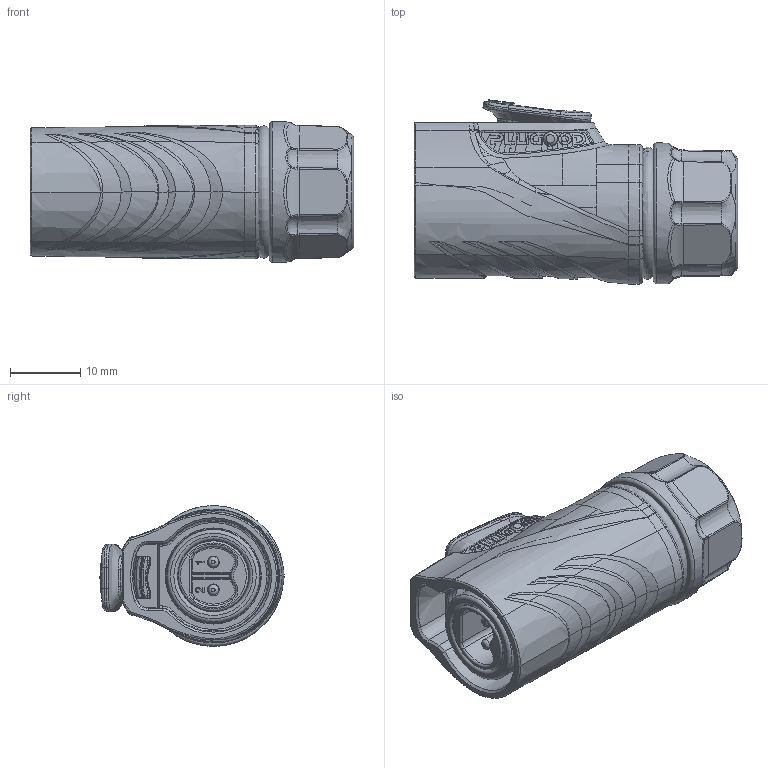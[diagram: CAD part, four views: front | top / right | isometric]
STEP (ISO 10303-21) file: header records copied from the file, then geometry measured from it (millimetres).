
FILE_DESCRIPTION (( 'STEP AP203' ), '1' );
FILE_NAME ('PLG14 2郋脣芛淏蚾.STEP', '2025-04-30T05:55:09', ( '' ), ( '' ), 'SwSTEP 2.0', 'SolidWorks 2024', '' );
FILE_SCHEMA (( 'CONFIG_CONTROL_DESIGN' ));
Length unit declared in the file: millimetre
Products named in the file (1): PLG14 2芯插头正装
Bounding box: 45.99 x 26.19 x 20 mm (x, y, z)
Volume: 12377.7 mm3; surface area: 8835.5 mm2
Topology: 2 solids, 10 shells, 1333 faces, 3543 edges, 2213 vertices
Faces by surface type: bspline 545, plane 338, cylinder 260, torus 98, sphere 51, cone 41
Full cylindrical faces by diameter (mm): 1.216 x1, 1.5 x4, 1.7 x2, 2.1 x2, 2.114 x1, 2.2 x2, 3.5 x1, 10 x1, 10.7 x1, 11.4 x1, 12.4 x2, 12.5 x2, 13.2 x2, 15.033 x1, 15.35 x1, 15.754 x6, 20 x1
Entity records: 100734 total; most frequent: CARTESIAN_POINT 73592, ORIENTED_EDGE 6762, DIRECTION 3862, EDGE_CURVE 3381, VERTEX_POINT 2159, B_SPLINE_CURVE_WITH_KNOTS 1639, AXIS2_PLACEMENT_3D 1484, EDGE_LOOP 1434
